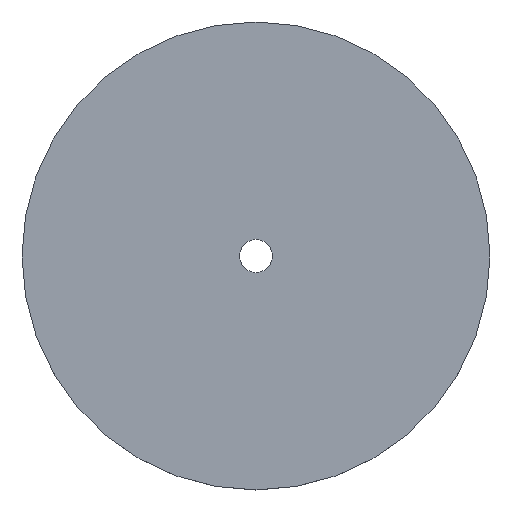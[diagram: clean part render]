
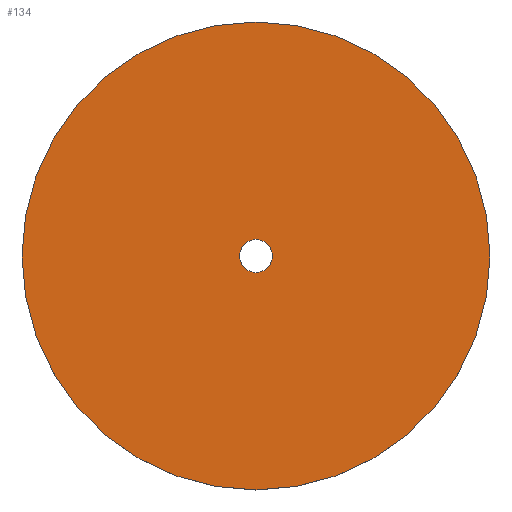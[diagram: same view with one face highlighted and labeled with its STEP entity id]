
A CAD part, top view. The second image highlights one B-rep face of the part: STEP entity #134.
In plain terms, the highlighted planar face has unit normal (0, 0, 1).
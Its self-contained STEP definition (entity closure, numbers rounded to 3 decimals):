
#29=CARTESIAN_POINT('',(0.,0.,0.7));
#30=DIRECTION('',(0.,0.,1.));
#31=DIRECTION('',(1.,0.,0.));
#32=AXIS2_PLACEMENT_3D('',#29,#30,#31);
#34=CARTESIAN_POINT('',(0.,0.,0.7));
#35=DIRECTION('',(0.,0.,1.));
#36=DIRECTION('',(-1.,0.,0.));
#37=AXIS2_PLACEMENT_3D('',#34,#35,#36);
#39=CARTESIAN_POINT('',(0.,0.,0.7));
#40=DIRECTION('',(0.,0.,1.));
#41=DIRECTION('',(1.,0.,0.));
#42=AXIS2_PLACEMENT_3D('',#39,#40,#41);
#44=CARTESIAN_POINT('',(0.,0.,0.7));
#45=DIRECTION('',(0.,0.,1.));
#46=DIRECTION('',(-1.,0.,0.));
#47=AXIS2_PLACEMENT_3D('',#44,#45,#46);
#61=CARTESIAN_POINT('',(6.35,0.,0.7));
#62=CARTESIAN_POINT('',(-6.35,0.,0.7));
#63=VERTEX_POINT('',#61);
#64=VERTEX_POINT('',#62);
#69=CARTESIAN_POINT('',(0.45,0.,0.7));
#70=CARTESIAN_POINT('',(-0.45,0.,0.7));
#71=VERTEX_POINT('',#69);
#72=VERTEX_POINT('',#70);
#119=CARTESIAN_POINT('',(0.,0.,0.7));
#120=DIRECTION('',(0.,0.,1.));
#121=DIRECTION('',(1.,0.,0.));
#122=AXIS2_PLACEMENT_3D('',#119,#120,#121);
#123=PLANE('',#122);
#124=ORIENTED_EDGE('',*,*,#99,.F.);
#125=ORIENTED_EDGE('',*,*,#113,.F.);
#126=EDGE_LOOP('',(#124,#125));
#127=FACE_OUTER_BOUND('',#126,.F.);
#129=ORIENTED_EDGE('',*,*,#128,.T.);
#131=ORIENTED_EDGE('',*,*,#130,.T.);
#132=EDGE_LOOP('',(#129,#131));
#133=FACE_BOUND('',#132,.F.);
#134=ADVANCED_FACE('',(#127,#133),#123,.T.);
#33=CIRCLE('',#32,6.35);
#38=CIRCLE('',#37,6.35);
#43=CIRCLE('',#42,0.45);
#48=CIRCLE('',#47,0.45);
#99=EDGE_CURVE('',#63,#64,#33,.T.);
#113=EDGE_CURVE('',#64,#63,#38,.T.);
#128=EDGE_CURVE('',#71,#72,#43,.T.);
#130=EDGE_CURVE('',#72,#71,#48,.T.);
